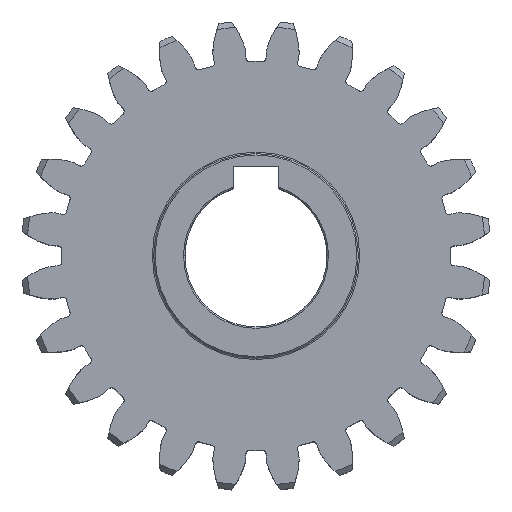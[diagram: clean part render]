
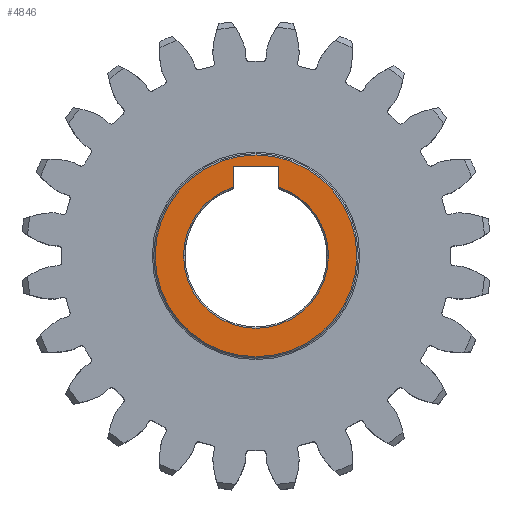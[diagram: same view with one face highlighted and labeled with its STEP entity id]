
A CAD part, top view. The second image highlights one B-rep face of the part: STEP entity #4846.
In plain terms, the highlighted planar face has unit normal (0, 0, 1).
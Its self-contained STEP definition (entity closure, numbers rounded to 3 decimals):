
#317 = DIRECTION ( 'NONE',  ( 1., 0., 0. ) ) ;
#390 = EDGE_CURVE ( 'NONE', #12653, #8359, #13849, .T. ) ;
#669 = VERTEX_POINT ( 'NONE', #14647 ) ;
#684 = ORIENTED_EDGE ( 'NONE', *, *, #11598, .T. ) ;
#758 = PLANE ( 'NONE',  #8696 ) ;
#868 = EDGE_CURVE ( 'NONE', #7868, #7459, #8485, .T. ) ;
#933 = EDGE_CURVE ( 'NONE', #8359, #669, #6249, .T. ) ;
#1107 = LINE ( 'NONE', #13277, #14582 ) ;
#1221 = DIRECTION ( 'NONE',  ( 1., 0., 0. ) ) ;
#1379 = CIRCLE ( 'NONE', #8799, 12.75 ) ;
#1916 = ORIENTED_EDGE ( 'NONE', *, *, #868, .T. ) ;
#2004 = EDGE_CURVE ( 'NONE', #7459, #10698, #14795, .T. ) ;
#2532 = CARTESIAN_POINT ( 'NONE',  ( -17.75, 0., 15. ) ) ;
#3219 = CARTESIAN_POINT ( 'NONE',  ( 12.75, 0., 15. ) ) ;
#3291 = CARTESIAN_POINT ( 'NONE',  ( 0., 0., 15. ) ) ;
#3532 = DIRECTION ( 'NONE',  ( 0., -1., 0. ) ) ;
#3803 = EDGE_CURVE ( 'NONE', #10698, #12653, #1107, .T. ) ;
#4099 = CARTESIAN_POINT ( 'NONE',  ( 0., 0., 15. ) ) ;
#4232 = ORIENTED_EDGE ( 'NONE', *, *, #2004, .T. ) ;
#4841 = CARTESIAN_POINT ( 'NONE',  ( 0., 0., 15. ) ) ;
#4846 = ADVANCED_FACE ( 'NONE', ( #5719, #12840 ), #758, .T. ) ;
#5670 = EDGE_LOOP ( 'NONE', ( #13244, #12174 ) ) ;
#5705 = CIRCLE ( 'NONE', #11084, 17.75 ) ;
#5719 = FACE_OUTER_BOUND ( 'NONE', #5670, .T. ) ;
#6127 = EDGE_LOOP ( 'NONE', ( #8676, #684, #1916, #4232, #8808, #7404 ) ) ;
#6249 = LINE ( 'NONE', #11063, #9763 ) ;
#6315 = CARTESIAN_POINT ( 'NONE',  ( -4., 15.8, 15. ) ) ;
#6653 = CARTESIAN_POINT ( 'NONE',  ( -4., 12.106, 15. ) ) ;
#6908 = DIRECTION ( 'NONE',  ( 1., 0., 0. ) ) ;
#7404 = ORIENTED_EDGE ( 'NONE', *, *, #390, .T. ) ;
#7459 = VERTEX_POINT ( 'NONE', #10833 ) ;
#7593 = CARTESIAN_POINT ( 'NONE',  ( 4., 15.8, 15. ) ) ;
#7730 = AXIS2_PLACEMENT_3D ( 'NONE', #13480, #13237, #1221 ) ;
#7859 = DIRECTION ( 'NONE',  ( 0., 0., 1. ) ) ;
#7868 = VERTEX_POINT ( 'NONE', #3219 ) ;
#8181 = DIRECTION ( 'NONE',  ( 0., 0., -1. ) ) ;
#8359 = VERTEX_POINT ( 'NONE', #10810 ) ;
#8485 = CIRCLE ( 'NONE', #12807, 12.75 ) ;
#8581 = VERTEX_POINT ( 'NONE', #2532 ) ;
#8676 = ORIENTED_EDGE ( 'NONE', *, *, #933, .T. ) ;
#8696 = AXIS2_PLACEMENT_3D ( 'NONE', #11881, #15573, #6908 ) ;
#8799 = AXIS2_PLACEMENT_3D ( 'NONE', #14807, #8809, #317 ) ;
#8808 = ORIENTED_EDGE ( 'NONE', *, *, #3803, .T. ) ;
#8809 = DIRECTION ( 'NONE',  ( 0., 0., -1. ) ) ;
#9763 = VECTOR ( 'NONE', #3532, 1000. ) ;
#9888 = EDGE_CURVE ( 'NONE', #11399, #8581, #10825, .T. ) ;
#10354 = DIRECTION ( 'NONE',  ( 1., 0., 0. ) ) ;
#10664 = EDGE_CURVE ( 'NONE', #8581, #11399, #5705, .T. ) ;
#10698 = VERTEX_POINT ( 'NONE', #6653 ) ;
#10810 = CARTESIAN_POINT ( 'NONE',  ( 4., 15.8, 15. ) ) ;
#10825 = CIRCLE ( 'NONE', #7730, 17.75 ) ;
#10833 = CARTESIAN_POINT ( 'NONE',  ( -12.75, 0., 15. ) ) ;
#11063 = CARTESIAN_POINT ( 'NONE',  ( 4., 9.2, 15. ) ) ;
#11084 = AXIS2_PLACEMENT_3D ( 'NONE', #4099, #7859, #10354 ) ;
#11399 = VERTEX_POINT ( 'NONE', #14986 ) ;
#11598 = EDGE_CURVE ( 'NONE', #669, #7868, #1379, .T. ) ;
#11881 = CARTESIAN_POINT ( 'NONE',  ( 0., 0., 15. ) ) ;
#11885 = DIRECTION ( 'NONE',  ( 0., 0., -1. ) ) ;
#12074 = VECTOR ( 'NONE', #12636, 1000. ) ;
#12174 = ORIENTED_EDGE ( 'NONE', *, *, #9888, .T. ) ;
#12636 = DIRECTION ( 'NONE',  ( 1., 0., 0. ) ) ;
#12653 = VERTEX_POINT ( 'NONE', #6315 ) ;
#12807 = AXIS2_PLACEMENT_3D ( 'NONE', #3291, #8181, #13066 ) ;
#12840 = FACE_BOUND ( 'NONE', #6127, .T. ) ;
#13066 = DIRECTION ( 'NONE',  ( 1., 0., 0. ) ) ;
#13237 = DIRECTION ( 'NONE',  ( 0., 0., 1. ) ) ;
#13244 = ORIENTED_EDGE ( 'NONE', *, *, #10664, .T. ) ;
#13271 = AXIS2_PLACEMENT_3D ( 'NONE', #4841, #11885, #14455 ) ;
#13277 = CARTESIAN_POINT ( 'NONE',  ( -4., 9.2, 15. ) ) ;
#13480 = CARTESIAN_POINT ( 'NONE',  ( 0., 0., 15. ) ) ;
#13849 = LINE ( 'NONE', #7593, #12074 ) ;
#14455 = DIRECTION ( 'NONE',  ( 1., 0., 0. ) ) ;
#14582 = VECTOR ( 'NONE', #15684, 1000. ) ;
#14647 = CARTESIAN_POINT ( 'NONE',  ( 4., 12.106, 15. ) ) ;
#14795 = CIRCLE ( 'NONE', #13271, 12.75 ) ;
#14807 = CARTESIAN_POINT ( 'NONE',  ( 0., 0., 15. ) ) ;
#14986 = CARTESIAN_POINT ( 'NONE',  ( 17.75, 0., 15. ) ) ;
#15573 = DIRECTION ( 'NONE',  ( 0., 0., 1. ) ) ;
#15684 = DIRECTION ( 'NONE',  ( 0., 1., 0. ) ) ;
